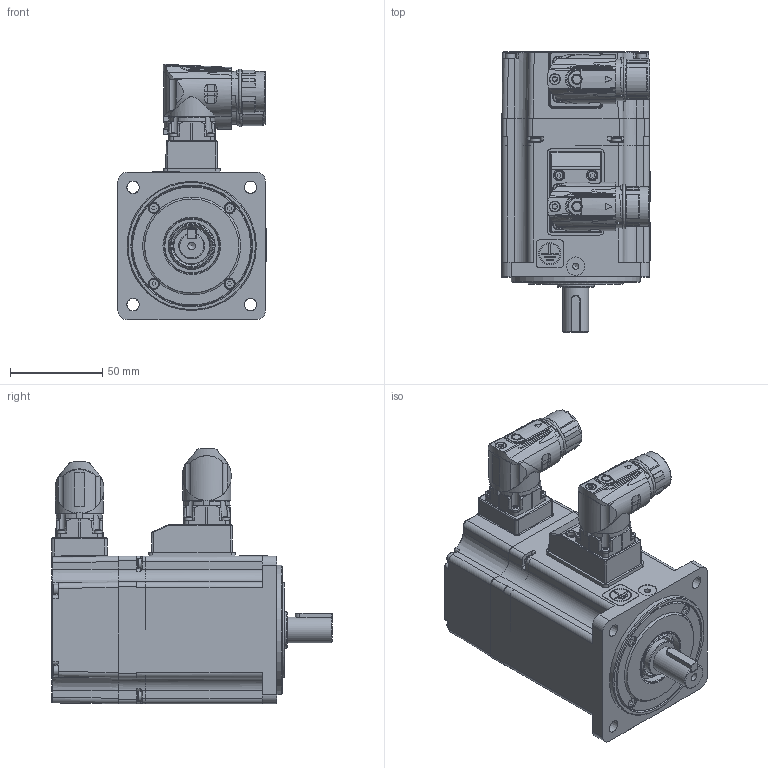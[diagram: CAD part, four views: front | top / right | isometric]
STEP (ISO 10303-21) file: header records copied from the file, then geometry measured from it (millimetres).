
FILE_DESCRIPTION( ( 'Unknown' ), '1' );
FILE_NAME( 'U:/05_Progetto TCE/010-TCE motor drawings/TCE80/vuoti/TCE80 3A XX 3 A1 0 C2.stp', 'Unknown', ( 'Unknown' ), ( 'Unknown' ), 'PSStep 17.0.49', 'Unknown', ' ' );
FILE_SCHEMA( ( 'AUTOMOTIVE_DESIGN { 1 0 10303 214 1 1 1 1 }' ) );
Length unit declared in the file: millimetre
Products named in the file (16): 005204000001
Bounding box: 80.3 x 152 x 138.5 mm (x, y, z)
Volume: 354820.4 mm3; surface area: 170413.4 mm2
Topology: 16 solids, 80 shells, 2877 faces, 7166 edges, 4583 vertices
Faces by surface type: plane 1370, cylinder 684, cone 266, bspline 230, torus 183, sphere 106, extrusion 38
Full cylindrical faces by diameter (mm): 1 x21, 1.2 x17, 1.4 x4, 2 x12, 2.013 x3, 2.2 x2, 2.459 x26, 2.5 x11, 2.65 x4, 2.7 x2, 2.8 x4, 3 x32, 3.2 x1, 3.242 x4, 3.5 x16, 4.134 x2, 4.4 x8, 4.5 x2, 4.7 x3, 5.5 x19, 5.8 x1, 5.9 x2, 6 x1, 6.8 x1, 10 x1, 11 x1, 12 x2, 13.3 x1, 14 x1, 14.99 x1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
Entity records: 115690 total; most frequent: CARTESIAN_POINT 32569, DIRECTION 12883, ORIENTED_EDGE 12538, EDGE_CURVE 6269, AXIS2_PLACEMENT_3D 4863, VERTEX_POINT 4360, EDGE_LOOP 3732, FACE_OUTER_BOUND 3271
